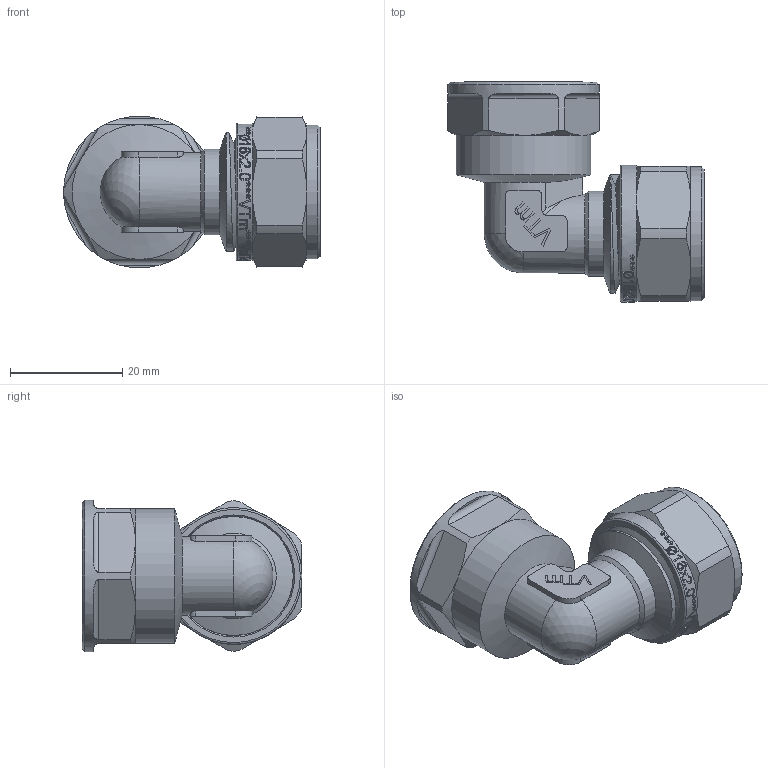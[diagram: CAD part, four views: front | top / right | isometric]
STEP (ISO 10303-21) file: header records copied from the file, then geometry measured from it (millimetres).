
FILE_DESCRIPTION(/* description */ (''),/* implementation_level */ '2;1');
FILE_NAME(/* name */ 'F:\Артём\00000\Работа удаленка\Обжимные фитинги\VTm.352.N.001604.stp',/* time_stamp */ '2020-08-06T13:18:32+03:00',/* author */ ('almis'),/* organization */ (''),/* preprocessor_version */ 'ST-DEVELOPER v18',/* originating_system */ 'Autodesk Inventor 2020',/* authorisation */ '');
FILE_SCHEMA (('AUTOMOTIVE_DESIGN { 1 0 10303 214 3 1 1 }'));
Length unit declared in the file: millimetre
Products named in the file (1): VTm.301.N.001604
Bounding box: 45.67 x 39.16 x 27 mm (x, y, z)
Volume: 10524.2 mm3; surface area: 11036.7 mm2
Topology: 1 solids, 1 shells, 807 faces, 2267 edges, 1518 vertices
Faces by surface type: bspline 366, plane 270, cylinder 111, cone 33, torus 25, sphere 2
Full cylindrical faces by diameter (mm): 8.2 x1, 9.6 x2, 10 x1, 11.95 x4, 14 x1, 15.2 x1, 16.324 x4, 16.4 x1, 16.924 x5, 17.324 x1, 17.6 x2, 18.6 x6, 18.924 x1, 21.2 x3, 22.2 x7, 23.824 x1, 24 x1, 24.324 x1, 27 x1
Entity records: 34223 total; most frequent: CARTESIAN_POINT 15747, ORIENTED_EDGE 4530, DIRECTION 2683, EDGE_CURVE 2265, VERTEX_POINT 1518, LINE 1025, VECTOR 1025, EDGE_LOOP 871
